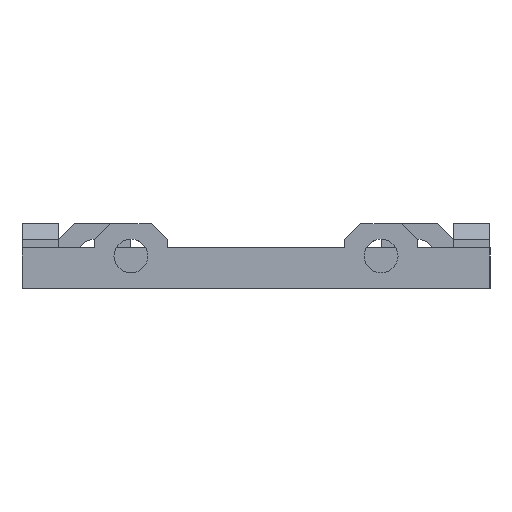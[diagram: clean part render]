
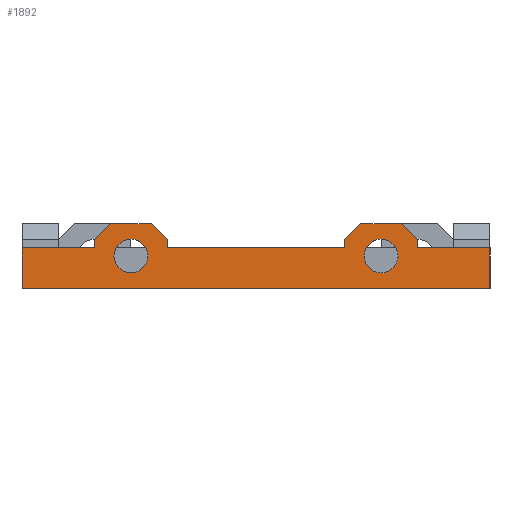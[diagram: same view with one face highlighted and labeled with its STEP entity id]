
A CAD part, left-side view. The second image highlights one B-rep face of the part: STEP entity #1892.
In plain terms, the highlighted planar face has unit normal (-1, 0, 0).
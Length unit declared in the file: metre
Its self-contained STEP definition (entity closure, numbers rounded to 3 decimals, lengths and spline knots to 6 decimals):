
#48=CIRCLE('',#2018,0.0021);
#49=CIRCLE('',#2019,0.0021);
#240=ORIENTED_EDGE('',*,*,#769,.F.);
#241=ORIENTED_EDGE('',*,*,#770,.F.);
#242=ORIENTED_EDGE('',*,*,#771,.T.);
#243=ORIENTED_EDGE('',*,*,#772,.T.);
#244=ORIENTED_EDGE('',*,*,#773,.T.);
#245=ORIENTED_EDGE('',*,*,#699,.T.);
#246=ORIENTED_EDGE('',*,*,#757,.F.);
#247=ORIENTED_EDGE('',*,*,#774,.F.);
#248=ORIENTED_EDGE('',*,*,#719,.T.);
#249=ORIENTED_EDGE('',*,*,#631,.T.);
#250=ORIENTED_EDGE('',*,*,#775,.F.);
#251=ORIENTED_EDGE('',*,*,#776,.T.);
#252=ORIENTED_EDGE('',*,*,#777,.T.);
#253=ORIENTED_EDGE('',*,*,#778,.T.);
#254=ORIENTED_EDGE('',*,*,#779,.T.);
#255=ORIENTED_EDGE('',*,*,#623,.T.);
#256=ORIENTED_EDGE('',*,*,#780,.F.);
#257=ORIENTED_EDGE('',*,*,#781,.T.);
#623=EDGE_CURVE('',#898,#897,#1087,.T.);
#631=EDGE_CURVE('',#906,#905,#1095,.T.);
#699=EDGE_CURVE('',#974,#973,#1163,.T.);
#719=EDGE_CURVE('',#992,#906,#1174,.T.);
#757=EDGE_CURVE('',#1021,#973,#1207,.T.);
#769=EDGE_CURVE('',#1032,#1032,#48,.T.);
#770=EDGE_CURVE('',#1033,#1033,#49,.T.);
#771=EDGE_CURVE('',#1034,#1035,#1213,.T.);
#772=EDGE_CURVE('',#1035,#1036,#1214,.F.);
#773=EDGE_CURVE('',#1036,#974,#1215,.T.);
#774=EDGE_CURVE('',#992,#1021,#1216,.T.);
#775=EDGE_CURVE('',#1037,#905,#1217,.T.);
#776=EDGE_CURVE('',#1037,#1038,#1218,.F.);
#777=EDGE_CURVE('',#1038,#1039,#1219,.T.);
#778=EDGE_CURVE('',#1039,#1040,#1220,.T.);
#779=EDGE_CURVE('',#1040,#898,#1221,.T.);
#780=EDGE_CURVE('',#1041,#897,#1222,.T.);
#781=EDGE_CURVE('',#1041,#1034,#1223,.T.);
#897=VERTEX_POINT('',#2635);
#898=VERTEX_POINT('',#2637);
#905=VERTEX_POINT('',#2651);
#906=VERTEX_POINT('',#2653);
#973=VERTEX_POINT('',#2787);
#974=VERTEX_POINT('',#2789);
#992=VERTEX_POINT('',#2828);
#1021=VERTEX_POINT('',#2896);
#1032=VERTEX_POINT('',#2927);
#1033=VERTEX_POINT('',#2929);
#1034=VERTEX_POINT('',#2931);
#1035=VERTEX_POINT('',#2932);
#1036=VERTEX_POINT('',#2934);
#1037=VERTEX_POINT('',#2938);
#1038=VERTEX_POINT('',#2940);
#1039=VERTEX_POINT('',#2942);
#1040=VERTEX_POINT('',#2944);
#1041=VERTEX_POINT('',#2947);
#1087=LINE('',#2636,#1319);
#1095=LINE('',#2652,#1327);
#1163=LINE('',#2788,#1395);
#1174=LINE('',#2827,#1406);
#1207=LINE('',#2897,#1439);
#1213=LINE('',#2930,#1445);
#1214=LINE('',#2933,#1446);
#1215=LINE('',#2935,#1447);
#1216=LINE('',#2936,#1448);
#1217=LINE('',#2937,#1449);
#1218=LINE('',#2939,#1450);
#1219=LINE('',#2941,#1451);
#1220=LINE('',#2943,#1452);
#1221=LINE('',#2945,#1453);
#1222=LINE('',#2946,#1454);
#1223=LINE('',#2948,#1455);
#1319=VECTOR('',#2130,1.);
#1327=VECTOR('',#2138,1.);
#1395=VECTOR('',#2206,1.);
#1406=VECTOR('',#2237,1.);
#1439=VECTOR('',#2284,1.);
#1445=VECTOR('',#2320,1.);
#1446=VECTOR('',#2321,1.);
#1447=VECTOR('',#2322,1.);
#1448=VECTOR('',#2323,1.);
#1449=VECTOR('',#2324,1.);
#1450=VECTOR('',#2325,1.);
#1451=VECTOR('',#2326,1.);
#1452=VECTOR('',#2327,1.);
#1453=VECTOR('',#2328,1.);
#1454=VECTOR('',#2329,1.);
#1455=VECTOR('',#2330,1.);
#1576=EDGE_LOOP('',(#240));
#1577=EDGE_LOOP('',(#241));
#1578=EDGE_LOOP('',(#242,#243,#244,#245,#246,#247,#248,#249,#250,#251,#252,
#253,#254,#255,#256,#257));
#1706=FACE_BOUND('',#1576,.T.);
#1707=FACE_BOUND('',#1577,.T.);
#1708=FACE_BOUND('',#1578,.T.);
#1810=PLANE('',#2017);
#1892=ADVANCED_FACE('',(#1706,#1707,#1708),#1810,.F.);
#2017=AXIS2_PLACEMENT_3D('',#2925,#2314,#2315);
#2018=AXIS2_PLACEMENT_3D('',#2926,#2316,#2317);
#2019=AXIS2_PLACEMENT_3D('',#2928,#2318,#2319);
#2130=DIRECTION('',(0.,1.,0.));
#2138=DIRECTION('',(0.,1.,0.));
#2206=DIRECTION('',(0.,1.,0.));
#2237=DIRECTION('',(0.,0.,1.));
#2284=DIRECTION('',(0.,0.,1.));
#2314=DIRECTION('',(1.,0.,0.));
#2315=DIRECTION('',(0.,1.,0.));
#2316=DIRECTION('',(-1.,0.,0.));
#2317=DIRECTION('',(0.,-1.,0.));
#2318=DIRECTION('',(-1.,0.,0.));
#2319=DIRECTION('',(0.,-1.,0.));
#2320=DIRECTION('',(0.,1.,0.));
#2321=DIRECTION('',(0.,-0.707,0.707));
#2322=DIRECTION('',(0.,0.,-1.));
#2323=DIRECTION('',(0.,1.,0.));
#2324=DIRECTION('',(0.,0.,-1.));
#2325=DIRECTION('',(0.,-0.707,-0.707));
#2326=DIRECTION('',(0.,1.,0.));
#2327=DIRECTION('',(0.,0.707,-0.707));
#2328=DIRECTION('',(0.,0.,-1.));
#2329=DIRECTION('',(0.,0.,-1.));
#2330=DIRECTION('',(0.,0.707,0.707));
#2635=CARTESIAN_POINT('',(-0.0445,0.011,-0.069));
#2636=CARTESIAN_POINT('',(-0.0445,0.,-0.069));
#2637=CARTESIAN_POINT('',(-0.0445,-0.011,-0.069));
#2651=CARTESIAN_POINT('',(-0.0445,-0.02,-0.069));
#2652=CARTESIAN_POINT('',(-0.0445,0.,-0.069));
#2653=CARTESIAN_POINT('',(-0.0445,-0.029,-0.069));
#2787=CARTESIAN_POINT('',(-0.0445,0.029,-0.069));
#2788=CARTESIAN_POINT('',(-0.0445,0.,-0.069));
#2789=CARTESIAN_POINT('',(-0.0445,0.02,-0.069));
#2827=CARTESIAN_POINT('',(-0.0445,-0.029,-0.074));
#2828=CARTESIAN_POINT('',(-0.0445,-0.029,-0.074));
#2896=CARTESIAN_POINT('',(-0.0445,0.029,-0.074));
#2897=CARTESIAN_POINT('',(-0.0445,0.029,-0.074));
#2925=CARTESIAN_POINT('',(-0.0445,0.,-0.074));
#2926=CARTESIAN_POINT('',(-0.0445,0.0155,-0.07));
#2927=CARTESIAN_POINT('',(-0.0445,0.0134,-0.07));
#2928=CARTESIAN_POINT('',(-0.0445,-0.0155,-0.07));
#2929=CARTESIAN_POINT('',(-0.0445,-0.0176,-0.07));
#2930=CARTESIAN_POINT('',(-0.0445,0.,-0.066));
#2931=CARTESIAN_POINT('',(-0.0445,0.013,-0.066));
#2932=CARTESIAN_POINT('',(-0.0445,0.018,-0.066));
#2933=CARTESIAN_POINT('',(-0.0445,0.018,-0.066));
#2934=CARTESIAN_POINT('',(-0.0445,0.02,-0.068));
#2935=CARTESIAN_POINT('',(-0.0445,0.02,-0.066));
#2936=CARTESIAN_POINT('',(-0.0445,0.,-0.074));
#2937=CARTESIAN_POINT('',(-0.0445,-0.02,-0.066));
#2938=CARTESIAN_POINT('',(-0.0445,-0.02,-0.068));
#2939=CARTESIAN_POINT('',(-0.0445,-0.018,-0.066));
#2940=CARTESIAN_POINT('',(-0.0445,-0.018,-0.066));
#2941=CARTESIAN_POINT('',(-0.0445,0.,-0.066));
#2942=CARTESIAN_POINT('',(-0.0445,-0.013,-0.066));
#2943=CARTESIAN_POINT('',(-0.0445,-0.011,-0.068));
#2944=CARTESIAN_POINT('',(-0.0445,-0.011,-0.068));
#2945=CARTESIAN_POINT('',(-0.0445,-0.011,-0.066));
#2946=CARTESIAN_POINT('',(-0.0445,0.011,-0.066));
#2947=CARTESIAN_POINT('',(-0.0445,0.011,-0.068));
#2948=CARTESIAN_POINT('',(-0.0445,0.011,-0.068));
